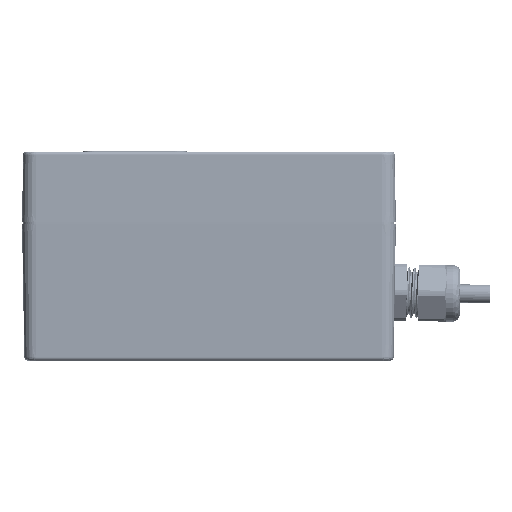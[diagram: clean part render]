
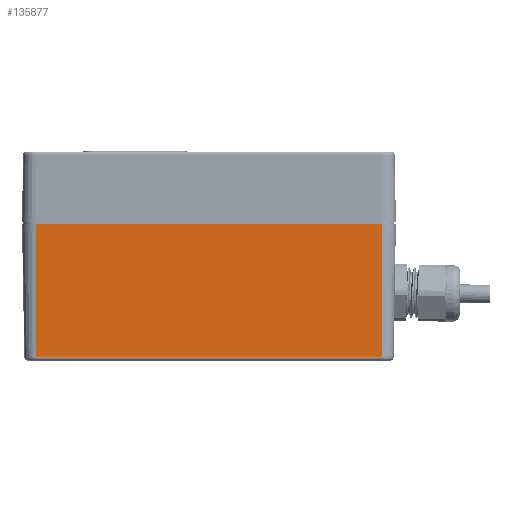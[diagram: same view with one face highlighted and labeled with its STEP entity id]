
A CAD part, left-side view. The second image highlights one B-rep face of the part: STEP entity #135877.
In plain terms, the highlighted planar face has unit normal (-1, 0, -0.017) as drawn and (0, -0.017, 1) by its records, which use the part's own axes.
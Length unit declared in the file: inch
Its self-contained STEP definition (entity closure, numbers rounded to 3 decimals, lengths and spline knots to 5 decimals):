
#2685 = LINE ( 'NONE', #80543, #10647 ) ;
#6160 = ORIENTED_EDGE ( 'NONE', *, *, #49356, .T. ) ;
#8308 = DIRECTION ( 'NONE',  ( 0., 1., 0.017 ) ) ;
#10647 = VECTOR ( 'NONE', #133399, 39.37008 ) ;
#11689 = ORIENTED_EDGE ( 'NONE', *, *, #35871, .T. ) ;
#12572 = ORIENTED_EDGE ( 'NONE', *, *, #83703, .F. ) ;
#15625 = LINE ( 'NONE', #134233, #42738 ) ;
#20202 = LINE ( 'NONE', #126722, #23817 ) ;
#23530 = VERTEX_POINT ( 'NONE', #136311 ) ;
#23817 = VECTOR ( 'NONE', #45386, 39.37008 ) ;
#26705 = VERTEX_POINT ( 'NONE', #137652 ) ;
#29471 = DIRECTION ( 'NONE',  ( 0., -1., -0.017 ) ) ;
#35871 = EDGE_CURVE ( 'NONE', #26705, #91103, #20202, .T. ) ;
#42738 = VECTOR ( 'NONE', #29471, 39.37008 ) ;
#45386 = DIRECTION ( 'NONE',  ( -1., 0., 0. ) ) ;
#45748 = CARTESIAN_POINT ( 'NONE',  ( -2.907, 0., 3.145 ) ) ;
#49356 = EDGE_CURVE ( 'NONE', #91103, #23530, #15625, .T. ) ;
#50147 = AXIS2_PLACEMENT_3D ( 'NONE', #72725, #150704, #85733 ) ;
#59771 = FACE_OUTER_BOUND ( 'NONE', #73808, .T. ) ;
#72725 = CARTESIAN_POINT ( 'NONE',  ( 0., 0., 3.145 ) ) ;
#73808 = EDGE_LOOP ( 'NONE', ( #152961, #11689, #6160, #12572 ) ) ;
#80543 = CARTESIAN_POINT ( 'NONE',  ( 0., -2.23958, 3.10638 ) ) ;
#83703 = EDGE_CURVE ( 'NONE', #149045, #23530, #2685, .T. ) ;
#85733 = DIRECTION ( 'NONE',  ( 0., -1., -0.017 ) ) ;
#91103 = VERTEX_POINT ( 'NONE', #45748 ) ;
#98740 = PLANE ( 'NONE',  #50147 ) ;
#112353 = VECTOR ( 'NONE', #8308, 39.37008 ) ;
#126722 = CARTESIAN_POINT ( 'NONE',  ( 0., 0., 3.145 ) ) ;
#133399 = DIRECTION ( 'NONE',  ( -1., 0., 0. ) ) ;
#134233 = CARTESIAN_POINT ( 'NONE',  ( -2.907, 0., 3.145 ) ) ;
#135877 = ADVANCED_FACE ( 'NONE', ( #59771 ), #98740, .T. ) ;
#136311 = CARTESIAN_POINT ( 'NONE',  ( -2.907, -2.23958, 3.10638 ) ) ;
#137652 = CARTESIAN_POINT ( 'NONE',  ( 2.907, 0., 3.145 ) ) ;
#139004 = LINE ( 'NONE', #139866, #112353 ) ;
#139866 = CARTESIAN_POINT ( 'NONE',  ( 2.907, 0., 3.145 ) ) ;
#147687 = EDGE_CURVE ( 'NONE', #149045, #26705, #139004, .T. ) ;
#147852 = CARTESIAN_POINT ( 'NONE',  ( 2.907, -2.23958, 3.10638 ) ) ;
#149045 = VERTEX_POINT ( 'NONE', #147852 ) ;
#150704 = DIRECTION ( 'NONE',  ( 0., -0.017, 1. ) ) ;
#152961 = ORIENTED_EDGE ( 'NONE', *, *, #147687, .T. ) ;
